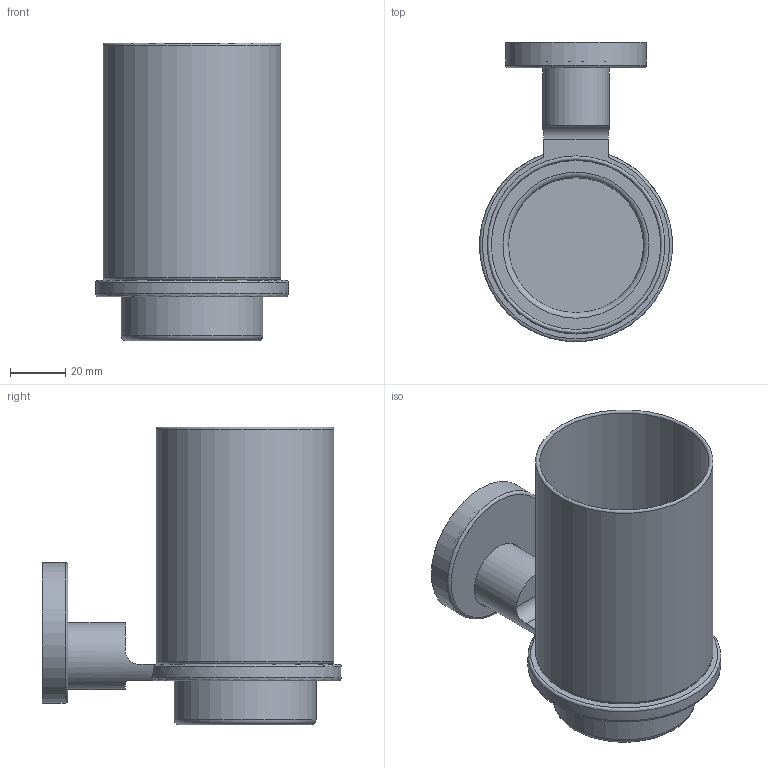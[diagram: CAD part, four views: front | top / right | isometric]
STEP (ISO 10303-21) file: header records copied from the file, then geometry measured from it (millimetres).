
FILE_DESCRIPTION(/* description */ (''),/* implementation_level */ '2;1');
FILE_NAME(/* name */ '4111151',/* time_stamp */ '2019-08-26T09:33:28+08:00',/* author */ (''),/* organization */ (''),/* preprocessor_version */ 'ST-DEVELOPER v9',/* originating_system */ 'UGS - NX 4.0',/* authorisation */ '');
FILE_SCHEMA (('CONFIG_CONTROL_DESIGN'));
Length unit declared in the file: millimetre
Products named in the file (1): w335DEEtk4k
Bounding box: 69.96 x 108.48 x 108 mm (x, y, z)
Volume: 63578.6 mm3; surface area: 67132.8 mm2
Topology: 4 solids, 4 shells, 104 faces, 249 edges, 161 vertices
Faces by surface type: plane 55, cylinder 37, torus 8, cone 4
Full cylindrical faces by diameter (mm): 6.3 x1, 24.2 x1, 25.3 x1, 49 x1, 50 x1, 51 x1, 51.5 x1, 54.5 x1, 61.5 x1, 64.5 x1
Entity records: 3118 total; most frequent: CARTESIAN_POINT 609, DIRECTION 514, ORIENTED_EDGE 464, EDGE_CURVE 232, AXIS2_PLACEMENT_3D 187, VERTEX_POINT 160, LINE 140, VECTOR 140
